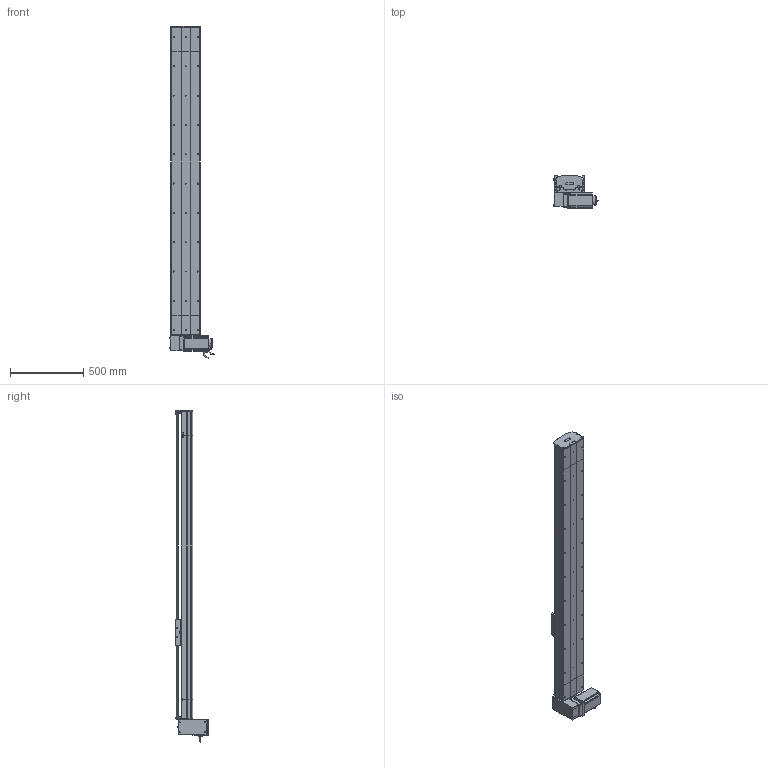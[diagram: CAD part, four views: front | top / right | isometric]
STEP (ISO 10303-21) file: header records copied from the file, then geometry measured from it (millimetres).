
FILE_DESCRIPTION (( 'STEP AP214' ), '1' );
FILE_NAME ('D20 TBH RU S1800.STEP', '2010-07-01T07:34:10', ( 'Conseil Régional Haute-Normandie' ), ( 'Conseil Régional Haute-Normandie' ), 'SwSTEP 2.0', 'SolidWorks 2010', '' );
FILE_SCHEMA (( 'AUTOMOTIVE_DESIGN' ));
Length unit declared in the file: millimetre
Products named in the file (40): plaque de  bout tail D20_Default; Renvoi RU D20_Default; tail D20_Default; poulie tail D20_Default; corpl tail D20_Default; vis M8 L12_Default; clavette; Conecteur_Default; Conecteur2_Default; codeur 110BLDC170A-630x; corps 110BLDC170A-630x; Plaque racord D20LH_Default; Couroie tail D20_Default; avant 110BLDC170A-630x; Moteur motionking 110BLDC170A-640x; vis M5 L70_Default; rail tail D20; vis M5 L8 90°_Default; vis M5 L25_Default; vis M5 L12_Default; tete d''axe poulie D20B; couvercle tail D20_Default; chariot D20B_Default; D20 TBH RU S1800; corp D20 S1800_Default; Course B L1800_Default; guide D20B; Chariot D20B; head RU_Default; rail + couroie  D20 S1800; couvercle D20 S1800_Default; couvercle head D20_Default; rail head D20; corpl head D20_Default; cache arbre D20_Default; plaque de  bout head D20B RU_Default; poulie head D20_Default; vis M5 L5_Default; couroie_Default; cache D20_Default
Assembly tree (71 placements, depth 4):
  D20 TBH RU S1800
    head RU_Default
      vis M5 L5_Default  x4
      vis M8 L12_Default  x4
      corpl head D20_Default
      vis M5 L70_Default  x4
      vis M5 L25_Default  x2
      rail head D20
      vis M5 L12_Default  x10
      Renvoi RU D20_Default
      couroie_Default
      cache D20_Default  x2
      couvercle head D20_Default
      cache arbre D20_Default
      poulie head D20_Default
      plaque de  bout head D20B RU_Default
      Moteur motionking 110BLDC170A-640x
        Conecteur2_Default
        clavette
        Conecteur_Default
        avant 110BLDC170A-630x
        codeur 110BLDC170A-630x
        corps 110BLDC170A-630x
      Plaque racord D20LH_Default
    tail D20_Default
      vis M5 L25_Default  x2
      corpl tail D20_Default
      vis M5 L12_Default  x4
      rail tail D20
      vis M5 L8 90°_Default  x2
      tete d''axe poulie D20B
      plaque de  bout tail D20_Default
      Couroie tail D20_Default
      couvercle tail D20_Default
      poulie tail D20_Default
    Course B L1800_Default
      rail + couroie  D20 S1800
      couvercle D20 S1800_Default
      corp D20 S1800_Default
    chariot D20B_Default
      vis M5 L12_Default  x4
      Chariot D20B
      guide D20B  x2
Bounding box: 304.2 x 223.2 x 2265 mm (x, y, z)
Volume: 18887117.1 mm3; surface area: 4525701.6 mm2
Topology: 95 solids, 95 shells, 2760 faces, 6984 edges, 4507 vertices
Faces by surface type: plane 1623, cylinder 813, bspline 136, cone 99, torus 89
Entity records: 87119 total; most frequent: CARTESIAN_POINT 27911, ORIENTED_EDGE 10624, DIRECTION 10041, EDGE_CURVE 5312, VERTEX_POINT 3493, VECTOR 3447, LINE 3447, AXIS2_PLACEMENT_3D 3297
